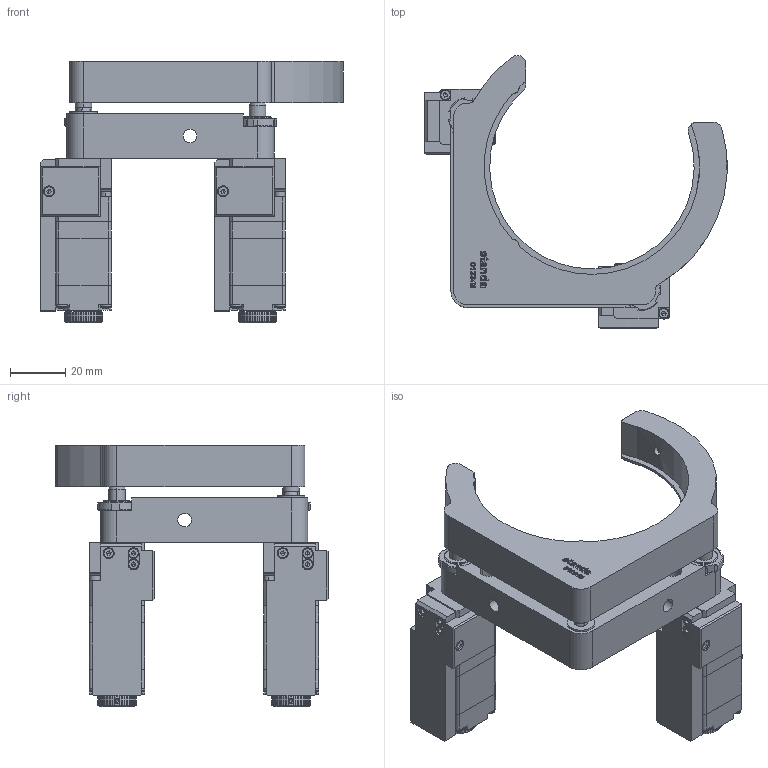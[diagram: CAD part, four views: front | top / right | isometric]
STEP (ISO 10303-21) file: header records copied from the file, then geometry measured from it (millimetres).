
FILE_DESCRIPTION (( 'STEP AP203' ), '1' );
FILE_NAME ('8MBM24-3-2.STEP', '2010-09-20T06:56:17', ( 'Darius' ), ( '' ), 'SwSTEP 2.0', 'SolidWorks 2003240', '' );
FILE_SCHEMA (( 'CONFIG_CONTROL_DESIGN' ));
Length unit declared in the file: millimetre
Products named in the file (1): 8MBM24-3-2
Bounding box: 109.5 x 98.7 x 94.5 mm (x, y, z)
Volume: 120470.1 mm3; surface area: 41951.9 mm2
Topology: 1 solids, 51 shells, 1810 faces, 4739 edges, 3036 vertices
Faces by surface type: plane 867, cylinder 389, cone 306, bspline 248
Entity records: 61215 total; most frequent: CARTESIAN_POINT 19194, ORIENTED_EDGE 9268, DIRECTION 7804, EDGE_CURVE 4634, VERTEX_POINT 3036, AXIS2_PLACEMENT_3D 2800, VECTOR 2204, LINE 2204
